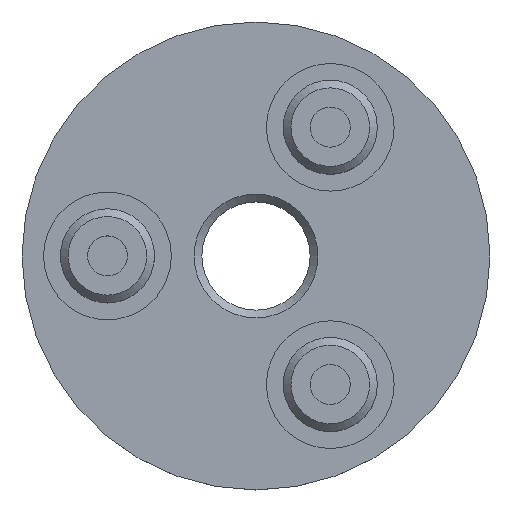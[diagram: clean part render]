
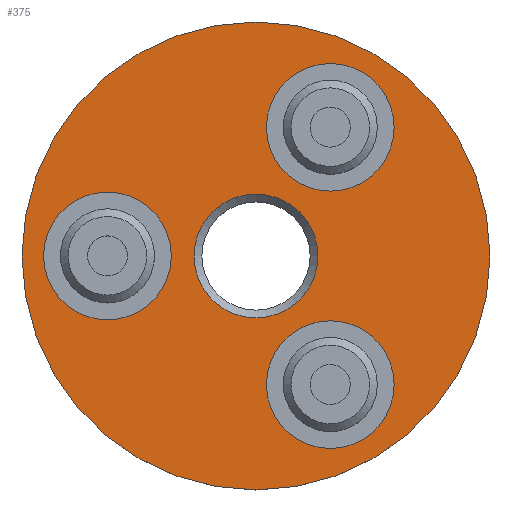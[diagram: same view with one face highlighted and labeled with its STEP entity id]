
A CAD part, top view. The second image highlights one B-rep face of the part: STEP entity #375.
In plain terms, the highlighted planar face has unit normal (0, 0, 1).
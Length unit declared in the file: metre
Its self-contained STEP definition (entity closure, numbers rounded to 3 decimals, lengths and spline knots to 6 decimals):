
#41=ORIENTED_EDGE('',*,*,#113,.F.);
#42=ORIENTED_EDGE('',*,*,#114,.F.);
#43=ORIENTED_EDGE('',*,*,#115,.F.);
#44=ORIENTED_EDGE('',*,*,#116,.T.);
#45=ORIENTED_EDGE('',*,*,#111,.T.);
#111=EDGE_CURVE('',#147,#147,#183,.T.);
#113=EDGE_CURVE('',#149,#149,#185,.T.);
#114=EDGE_CURVE('',#150,#150,#186,.T.);
#115=EDGE_CURVE('',#151,#151,#187,.T.);
#116=EDGE_CURVE('',#152,#152,#188,.F.);
#147=VERTEX_POINT('',#656);
#149=VERTEX_POINT('',#661);
#150=VERTEX_POINT('',#663);
#151=VERTEX_POINT('',#665);
#152=VERTEX_POINT('',#667);
#183=CIRCLE('',#430,0.024003);
#185=CIRCLE('',#433,0.006548);
#186=CIRCLE('',#434,0.006548);
#187=CIRCLE('',#435,0.006548);
#188=CIRCLE('',#436,0.00635);
#221=EDGE_LOOP('',(#41));
#222=EDGE_LOOP('',(#42));
#223=EDGE_LOOP('',(#43));
#224=EDGE_LOOP('',(#44));
#225=EDGE_LOOP('',(#45));
#293=FACE_BOUND('',#221,.T.);
#294=FACE_BOUND('',#222,.T.);
#295=FACE_BOUND('',#223,.T.);
#296=FACE_BOUND('',#224,.T.);
#297=FACE_BOUND('',#225,.T.);
#358=PLANE('',#432);
#375=ADVANCED_FACE('',(#293,#294,#295,#296,#297),#358,.T.);
#430=AXIS2_PLACEMENT_3D('',#655,#513,#514);
#432=AXIS2_PLACEMENT_3D('',#659,#517,#518);
#433=AXIS2_PLACEMENT_3D('',#660,#519,#520);
#434=AXIS2_PLACEMENT_3D('',#662,#521,#522);
#435=AXIS2_PLACEMENT_3D('',#664,#523,#524);
#436=AXIS2_PLACEMENT_3D('',#666,#525,#526);
#513=DIRECTION('',(0.,0.,1.));
#514=DIRECTION('',(1.,0.,0.));
#517=DIRECTION('',(0.,0.,1.));
#518=DIRECTION('',(1.,0.,0.));
#519=DIRECTION('',(0.,0.,1.));
#520=DIRECTION('',(1.,0.,0.));
#521=DIRECTION('',(0.,0.,1.));
#522=DIRECTION('',(1.,0.,0.));
#523=DIRECTION('',(0.,0.,1.));
#524=DIRECTION('',(1.,0.,0.));
#525=DIRECTION('',(0.,0.,1.));
#526=DIRECTION('',(1.,0.,0.));
#655=CARTESIAN_POINT('',(0.,0.,0.046512));
#656=CARTESIAN_POINT('',(0.024003,0.,0.046512));
#659=CARTESIAN_POINT('',(0.,0.,0.046512));
#660=CARTESIAN_POINT('',(-0.01524,0.,0.046512));
#661=CARTESIAN_POINT('',(-0.008692,0.,0.046512));
#662=CARTESIAN_POINT('',(0.00762,-0.013198,0.046512));
#663=CARTESIAN_POINT('',(0.014168,-0.013198,0.046512));
#664=CARTESIAN_POINT('',(0.00762,0.013198,0.046512));
#665=CARTESIAN_POINT('',(0.014168,0.013198,0.046512));
#666=CARTESIAN_POINT('',(0.,0.,0.046512));
#667=CARTESIAN_POINT('',(0.00635,0.,0.046512));
